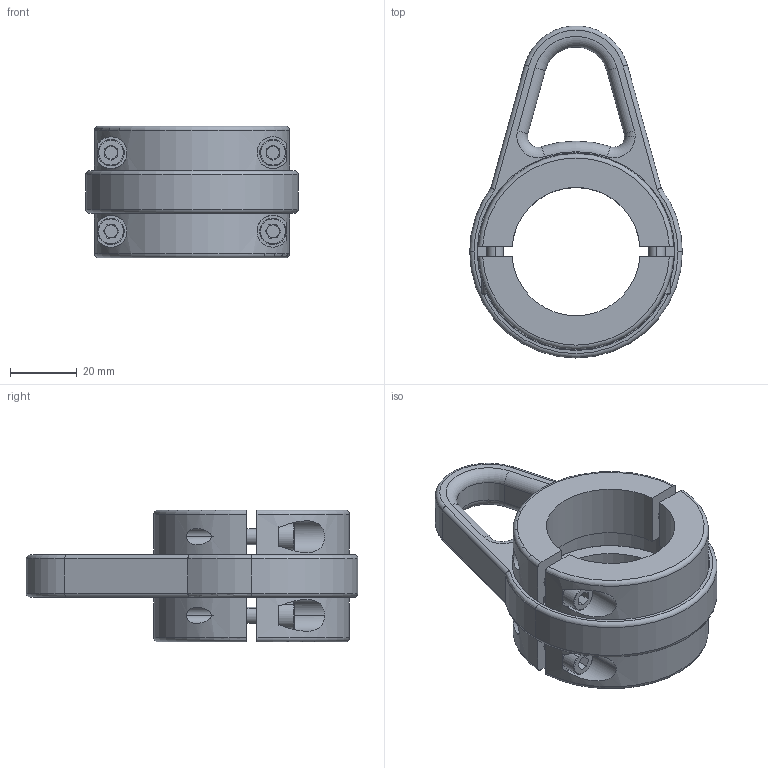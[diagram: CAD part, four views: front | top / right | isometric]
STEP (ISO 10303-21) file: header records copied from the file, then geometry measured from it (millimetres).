
FILE_DESCRIPTION (( 'STEP AP214' ), '1' );
FILE_NAME ('23662.STEP', '2017-07-06T17:02:49', ( 'AIMCO' ), ( '' ), 'SwSTEP 2.0', 'SolidWorks 2017', '' );
FILE_SCHEMA (( 'AUTOMOTIVE_DESIGN' ));
Length unit declared in the file: inch
Products named in the file (1): 23662
Bounding box: 63.5 x 99.15 x 39.37 mm (x, y, z)
Surface area: 28504.1 mm2 (no closed solid volume)
Topology: 0 solids, 12 shells, 163 faces, 439 edges, 298 vertices
Faces by surface type: cylinder 65, plane 56, torus 34, cone 8
Entity records: 7900 total; most frequent: CARTESIAN_POINT 1603, DIRECTION 917, ORIENTED_EDGE 766, EDGE_CURVE 439, AXIS2_PLACEMENT_3D 356, VERTEX_POINT 298, LINE 205, VECTOR 205
